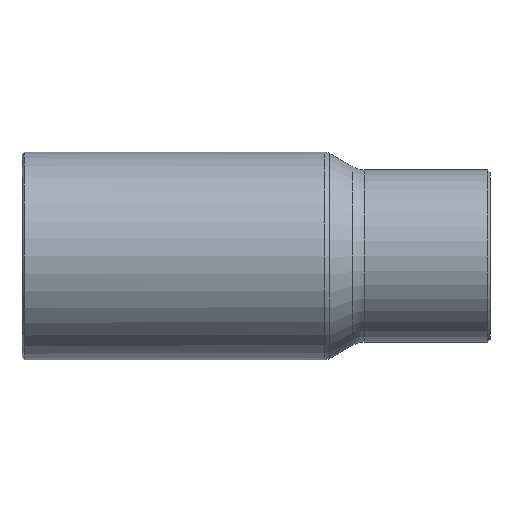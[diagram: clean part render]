
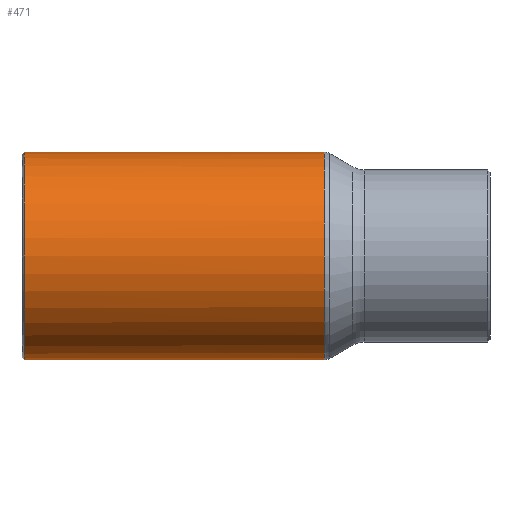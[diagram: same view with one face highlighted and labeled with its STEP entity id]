
A CAD part, front view. The second image highlights one B-rep face of the part: STEP entity #471.
In plain terms, the highlighted cylindrical face has radius 9.05 mm (diameter 18.1 mm), a full revolution.
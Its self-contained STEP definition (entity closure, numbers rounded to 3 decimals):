
#358=CARTESIAN_POINT('',(-19.0,9.05,0.));
#359=VERTEX_POINT('',#358);
#360=CARTESIAN_POINT('',(-19.0,0.0,0.0));
#361=DIRECTION('',(-1.0,0.0,0.0));
#362=DIRECTION('',(0.0,-1.0,0.0));
#363=AXIS2_PLACEMENT_3D('',#360,#361,#362);
#364=CIRCLE('',#363,9.05);
#365=EDGE_CURVE('',#359,#359,#364,.T.);
#390=CARTESIAN_POINT('',(1.2,0.0,0.0));
#391=DIRECTION('',(1.0,0.0,0.0));
#392=DIRECTION('',(0.0,1.0,0.0));
#393=AXIS2_PLACEMENT_3D('',#390,#391,#392);
#394=CYLINDRICAL_SURFACE('',#393,9.05);
#395=CARTESIAN_POINT('',(7.149,7.668,4.807));
#396=VERTEX_POINT('',#395);
#397=CARTESIAN_POINT('',(7.149,7.668,-4.807));
#398=VERTEX_POINT('',#397);
#399=CARTESIAN_POINT('',(7.149,0.0,0.0));
#400=DIRECTION('',(1.0,0.0,0.0));
#401=DIRECTION('',(0.0,-1.0,0.));
#402=AXIS2_PLACEMENT_3D('',#399,#400,#401);
#403=CIRCLE('',#402,9.05);
#404=EDGE_CURVE('',#396,#398,#403,.T.);
#405=ORIENTED_EDGE('',*,*,#404,.F.);
#406=CARTESIAN_POINT('',(0.,4.951,7.576));
#407=VERTEX_POINT('',#406);
#408=CARTESIAN_POINT('',(0.,4.951,7.576));
#409=CARTESIAN_POINT('',(0.276,4.951,7.576));
#410=CARTESIAN_POINT('',(0.646,4.972,7.562));
#411=CARTESIAN_POINT('',(1.37,5.065,7.5));
#412=CARTESIAN_POINT('',(2.521,5.318,7.329));
#413=CARTESIAN_POINT('',(3.553,5.727,7.018));
#414=CARTESIAN_POINT('',(4.438,6.139,6.651));
#415=CARTESIAN_POINT('',(5.009,6.424,6.382));
#416=CARTESIAN_POINT('',(6.002,6.965,5.807));
#417=CARTESIAN_POINT('',(6.716,7.397,5.238));
#418=CARTESIAN_POINT('',(7.144,7.665,4.812));
#419=CARTESIAN_POINT('',(7.149,7.668,4.807));
#420=B_SPLINE_CURVE_WITH_KNOTS('',3,(#408,#409,#410,#411,#412,#413,#414,#415,#416,#417,#418,#419),.UNSPECIFIED.,.F.,.U.,(4,1,1,1,1,1,1,1,1,4),(-4.685,-4.622,-4.602,-4.518,-4.351,-4.33,-4.267,-4.183,-4.016,-4.014),.UNSPECIFIED.);
#421=EDGE_CURVE('',#407,#396,#420,.T.);
#422=ORIENTED_EDGE('',*,*,#421,.F.);
#423=CARTESIAN_POINT('',(7.149,7.668,-4.807));
#424=CARTESIAN_POINT('',(7.145,7.665,-4.811));
#425=CARTESIAN_POINT('',(6.928,7.529,-5.027));
#426=CARTESIAN_POINT('',(6.623,7.342,-5.299));
#427=CARTESIAN_POINT('',(5.985,6.964,-5.79));
#428=CARTESIAN_POINT('',(5.222,6.531,-6.283));
#429=CARTESIAN_POINT('',(4.086,5.958,-6.825));
#430=CARTESIAN_POINT('',(2.952,5.487,-7.202));
#431=CARTESIAN_POINT('',(2.046,5.216,-7.397));
#432=CARTESIAN_POINT('',(1.107,5.014,-7.535));
#433=CARTESIAN_POINT('',(0.001,4.9,-7.608));
#434=CARTESIAN_POINT('',(-1.105,5.014,-7.535));
#435=CARTESIAN_POINT('',(-2.044,5.216,-7.397));
#436=CARTESIAN_POINT('',(-2.722,5.418,-7.252));
#437=CARTESIAN_POINT('',(-3.463,5.7,-7.032));
#438=CARTESIAN_POINT('',(-4.276,6.053,-6.735));
#439=CARTESIAN_POINT('',(-5.223,6.532,-6.282));
#440=CARTESIAN_POINT('',(-6.412,7.206,-5.515));
#441=CARTESIAN_POINT('',(-7.263,7.736,-4.734));
#442=CARTESIAN_POINT('',(-7.765,8.059,-4.121));
#443=CARTESIAN_POINT('',(-8.122,8.291,-3.647));
#444=CARTESIAN_POINT('',(-8.574,8.591,-2.921));
#445=CARTESIAN_POINT('',(-8.987,8.871,-1.891));
#446=CARTESIAN_POINT('',(-9.162,8.989,-1.106));
#447=CARTESIAN_POINT('',(-9.26,9.057,-0.304));
#448=CARTESIAN_POINT('',(-9.26,9.057,0.608));
#449=CARTESIAN_POINT('',(-9.045,8.909,1.699));
#450=CARTESIAN_POINT('',(-8.763,8.718,2.451));
#451=CARTESIAN_POINT('',(-8.502,8.544,2.995));
#452=CARTESIAN_POINT('',(-8.059,8.249,3.781));
#453=CARTESIAN_POINT('',(-7.467,7.864,4.514));
#454=CARTESIAN_POINT('',(-6.591,7.322,5.338));
#455=CARTESIAN_POINT('',(-5.866,6.891,5.886));
#456=CARTESIAN_POINT('',(-4.94,6.387,6.422));
#457=CARTESIAN_POINT('',(-4.078,5.962,6.816));
#458=CARTESIAN_POINT('',(-3.158,5.571,7.137));
#459=CARTESIAN_POINT('',(-2.166,5.239,7.382));
#460=CARTESIAN_POINT('',(-1.106,5.007,7.539));
#461=CARTESIAN_POINT('',(-0.369,4.951,7.576));
#462=CARTESIAN_POINT('',(0.,4.951,7.576));
#463=B_SPLINE_CURVE_WITH_KNOTS('',3,(#423,#424,#425,#426,#427,#428,#429,#430,#431,#432,#433,#434,#435,#436,#437,#438,#439,#440,#441,#442,#443,#444,#445,#446,#447,#448,#449,#450,#451,#452,#453,#454,#455,#456,#457,#458,#459,#460,#461,#462),.UNSPECIFIED.,.F.,.U.,(4,1,1,1,1,1,1,1,1,1,1,1,1,1,1,1,1,1,1,1,1,1,1,1,1,1,1,1,1,1,1,1,1,1,1,1,1,4),(-3.014,-3.012,-2.928,-2.9,-2.789,-2.677,-2.566,-2.482,-2.454,-2.343,-2.231,-2.203,-2.119,-2.064,-2.008,-1.896,-1.785,-1.618,-1.576,-1.562,-1.45,-1.339,-1.255,-1.227,-1.116,-1.004,-0.92,-0.892,-0.837,-0.669,-0.627,-0.502,-0.418,-0.335,-0.251,-0.167,-0.084,0.0),.UNSPECIFIED.);
#464=EDGE_CURVE('',#398,#407,#463,.T.);
#465=ORIENTED_EDGE('',*,*,#464,.F.);
#466=EDGE_LOOP('',(#405,#422,#465));
#467=FACE_OUTER_BOUND('',#466,.T.);
#468=ORIENTED_EDGE('',*,*,#365,.F.);
#469=EDGE_LOOP('',(#468));
#470=FACE_BOUND('',#469,.T.);
#471=ADVANCED_FACE('',(#467,#470),#394,.T.);
